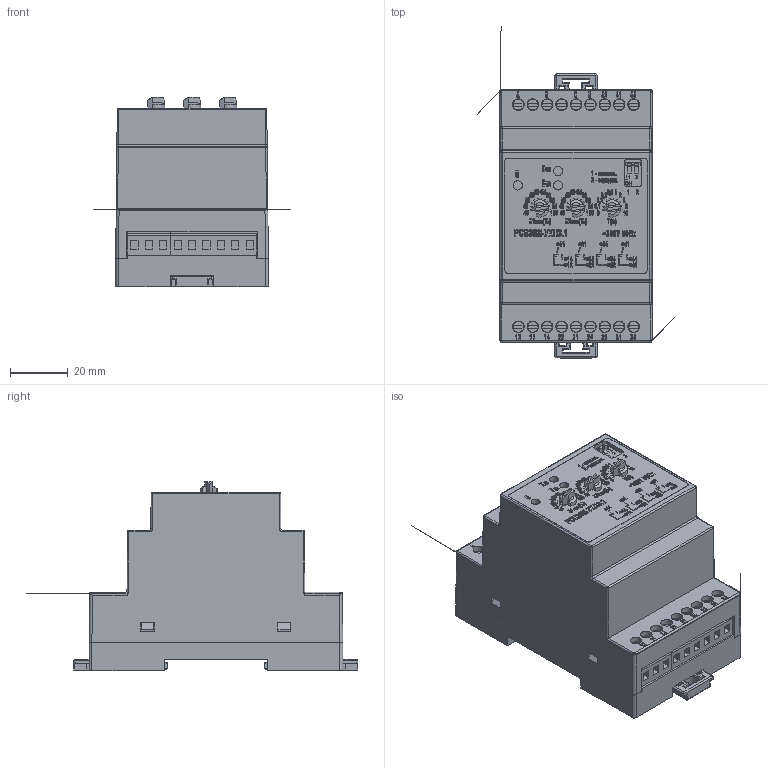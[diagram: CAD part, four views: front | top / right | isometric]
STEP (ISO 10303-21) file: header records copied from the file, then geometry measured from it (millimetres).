
FILE_DESCRIPTION(('STEP AP214'), '1');
FILE_NAME('Ðåëå ÐÑÍ36Ì', '2024-02-14T07:12:31', (''), (''), 'ASCON STEP Converter 1.6', 'ASCON Math Kernel', '');
FILE_SCHEMA(('AUTOMOTIVE_DESIGN { 1 0 10303 214 3 1 1}'));
Length unit declared in the file: millimetre
Bounding box: 68.65 x 115.21 x 65.89 mm (x, y, z)
Volume: 209920.3 mm3; surface area: 50607.5 mm2
Topology: 3 solids, 3 shells, 8749 faces, 24734 edges, 16315 vertices
Faces by surface type: cylinder 4886, plane 3674, bspline 87, torus 64, sphere 32, cone 6
Full cylindrical faces by diameter (mm): 0.55 x12, 2 x2, 2.1 x4, 3.2 x6, 3.7 x18, 3.9 x18, 4 x18
Entity records: 360901 total; most frequent: CARTESIAN_POINT 56146, DIRECTION 51201, ORIENTED_EDGE 49236, EDGE_CURVE 24618, AXIS2_PLACEMENT_3D 18354, VERTEX_POINT 16315, LINE 14493, VECTOR 14493
